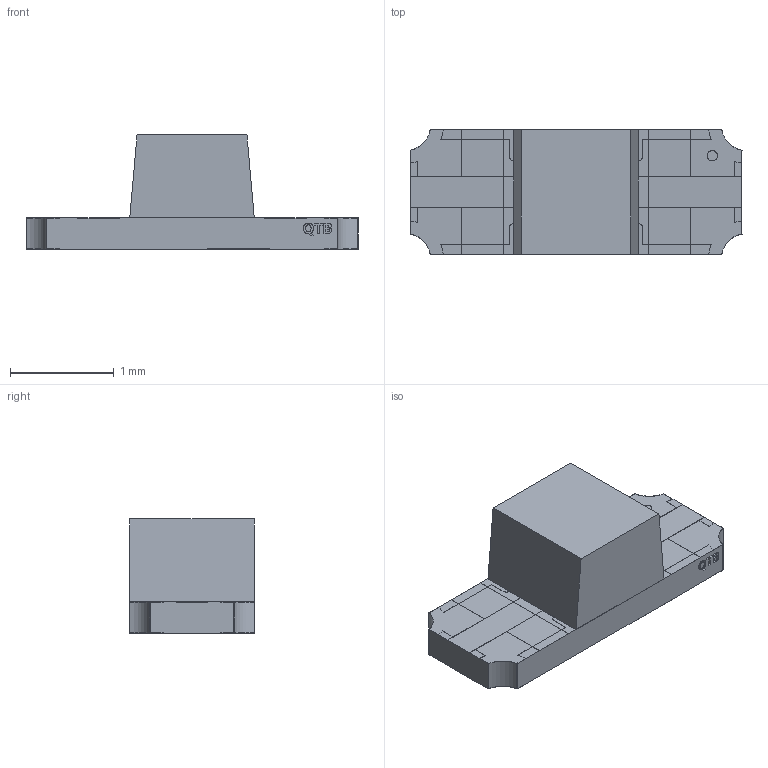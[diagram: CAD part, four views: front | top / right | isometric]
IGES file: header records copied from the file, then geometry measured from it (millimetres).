
Start section: Data from Parasolid IGES Translator 23.1.110, Copyright(c) 2006 Siemens PLM Software. All Rights Reserved.
Global section: file name: 5fab0fa84170af0f33aaecda.iges; native system: By Siemens PLM Incorporated; preprocessor: XPlus GENERIC/IGES 23.1.110; author: Noname; organization: Noname; date: 20201110.220945; units: metre
Bounding box: 3.2 x 1.2 x 1.1 mm (x, y, z)
Surface area: 26.4 mm2 (no closed solid volume)
Topology: 0 solids, 0 shells, 283 faces, 1612 edges, 1606 vertices
Faces by surface type: extrusion 229, revolution 54
